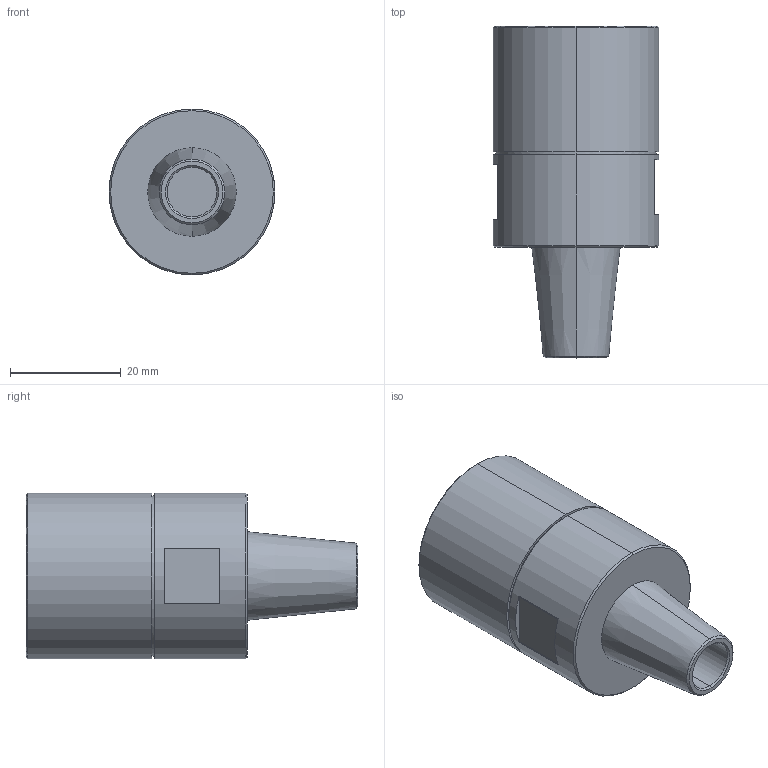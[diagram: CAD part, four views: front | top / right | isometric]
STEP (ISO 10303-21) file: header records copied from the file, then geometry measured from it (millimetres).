
FILE_DESCRIPTION (( 'STEP AP203' ), '1' );
FILE_NAME ('SW-PB-D12-3.STEP', '2022-06-15T02:26:16', ( '' ), ( '' ), 'SwSTEP 2.0', 'SolidWorks 2015', '' );
FILE_SCHEMA (( 'CONFIG_CONTROL_DESIGN' ));
Length unit declared in the file: millimetre
Products named in the file (2): SW-PB-D12-3
Bounding box: 30 x 60 x 30 mm (x, y, z)
Volume: 28799.5 mm3; surface area: 7093.6 mm2
Topology: 1 solids, 1 shells, 34 faces, 70 edges, 44 vertices
Faces by surface type: plane 16, cone 10, cylinder 8
Entity records: 1145 total; most frequent: CARTESIAN_POINT 250, DIRECTION 166, ORIENTED_EDGE 140, EDGE_CURVE 70, AXIS2_PLACEMENT_3D 64, VERTEX_POINT 44, EDGE_LOOP 40, VECTOR 38
